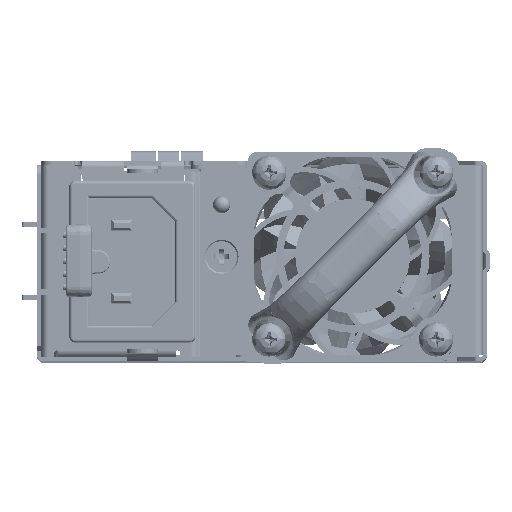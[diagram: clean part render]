
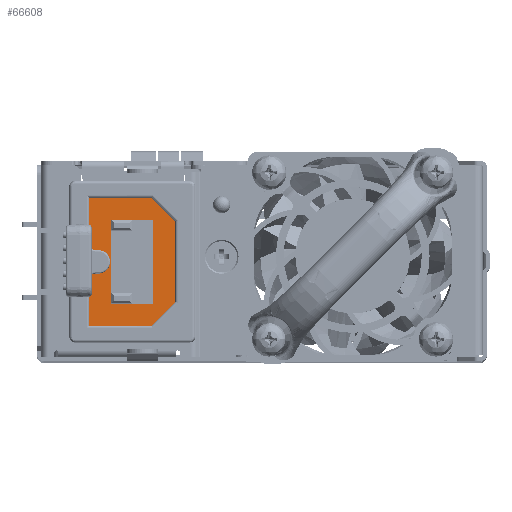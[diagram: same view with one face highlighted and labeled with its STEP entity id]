
A CAD part, top view. The second image highlights one B-rep face of the part: STEP entity #66608.
In plain terms, the highlighted planar face has unit normal (0, 0, 1).
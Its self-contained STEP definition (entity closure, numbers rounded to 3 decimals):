
#63188=DIRECTION('',(-1.,0.,0.));
#63189=VECTOR('',#63188,15.407);
#63190=CARTESIAN_POINT('',(7.703,8.25,-16.1));
#63191=LINE('',#63190,#63189);
#63251=DIRECTION('',(0.,1.,0.));
#63252=VECTOR('',#63251,11.953);
#63253=CARTESIAN_POINT('',(12.25,-8.25,-16.1));
#63254=LINE('',#63253,#63252);
#63283=DIRECTION('',(1.,0.,0.));
#63284=VECTOR('',#63283,8.75);
#63285=CARTESIAN_POINT('',(3.5,-8.25,-16.1));
#63286=LINE('',#63285,#63284);
#63297=DIRECTION('',(1.,0.,0.));
#63298=VECTOR('',#63297,8.75);
#63299=CARTESIAN_POINT('',(-12.25,-8.25,-16.1));
#63300=LINE('',#63299,#63298);
#63377=DIRECTION('',(0.,-1.,0.));
#63378=VECTOR('',#63377,0.5);
#63379=CARTESIAN_POINT('',(2.25,-6.5,-16.1));
#63380=LINE('',#63379,#63378);
#63482=CARTESIAN_POINT('',(3.5,-7.,-16.1));
#63483=DIRECTION('',(0.,0.,-1.));
#63484=DIRECTION('',(0.,-1.,0.));
#63485=AXIS2_PLACEMENT_3D('',#63482,#63483,#63484);
#63490=CARTESIAN_POINT('',(0.,-6.5,-16.1));
#63491=DIRECTION('',(0.,0.,1.));
#63492=DIRECTION('',(1.,0.,0.));
#63493=AXIS2_PLACEMENT_3D('',#63490,#63491,#63492);
#63498=DIRECTION('',(0.,-1.,0.));
#63499=VECTOR('',#63498,0.5);
#63500=CARTESIAN_POINT('',(-2.25,-6.5,-16.1));
#63501=LINE('',#63500,#63499);
#63505=CARTESIAN_POINT('',(-3.5,-7.,-16.1));
#63506=DIRECTION('',(0.,0.,-1.));
#63507=DIRECTION('',(1.,0.,0.));
#63508=AXIS2_PLACEMENT_3D('',#63505,#63506,#63507);
#63513=DIRECTION('',(0.707,0.707,0.));
#63514=VECTOR('',#63513,6.43);
#63515=CARTESIAN_POINT('',(-12.25,3.703,-16.1));
#63516=LINE('',#63515,#63514);
#63520=DIRECTION('',(0.707,-0.707,0.));
#63521=VECTOR('',#63520,6.43);
#63522=CARTESIAN_POINT('',(7.703,8.25,-16.1));
#63523=LINE('',#63522,#63521);
#63541=DIRECTION('',(0.,-1.,0.));
#63542=VECTOR('',#63541,11.953);
#63543=CARTESIAN_POINT('',(-12.25,3.703,-16.1));
#63544=LINE('',#63543,#63542);
#65340=CARTESIAN_POINT('',(7.703,8.25,-16.1));
#65341=VERTEX_POINT('',#65340);
#65342=CARTESIAN_POINT('',(-7.703,8.25,-16.1));
#65343=VERTEX_POINT('',#65342);
#65354=CARTESIAN_POINT('',(12.25,3.703,-16.1));
#65355=VERTEX_POINT('',#65354);
#65356=CARTESIAN_POINT('',(12.25,-8.25,-16.1));
#65357=VERTEX_POINT('',#65356);
#65363=CARTESIAN_POINT('',(3.5,-8.25,-16.1));
#65364=VERTEX_POINT('',#65363);
#65367=CARTESIAN_POINT('',(-12.25,-8.25,-16.1));
#65368=VERTEX_POINT('',#65367);
#65369=CARTESIAN_POINT('',(-3.5,-8.25,-16.1));
#65370=VERTEX_POINT('',#65369);
#65387=CARTESIAN_POINT('',(2.25,-6.5,-16.1));
#65388=VERTEX_POINT('',#65387);
#65389=CARTESIAN_POINT('',(2.25,-7.,-16.1));
#65390=VERTEX_POINT('',#65389);
#65395=CARTESIAN_POINT('',(-2.25,-6.5,-16.1));
#65396=VERTEX_POINT('',#65395);
#65399=CARTESIAN_POINT('',(-2.25,-7.,-16.1));
#65400=VERTEX_POINT('',#65399);
#65403=CARTESIAN_POINT('',(-12.25,3.703,-16.1));
#65404=VERTEX_POINT('',#65403);
#66586=CARTESIAN_POINT('',(0.,15.953,-16.1));
#66587=DIRECTION('',(0.,0.,-1.));
#66588=DIRECTION('',(-1.,0.,0.));
#66589=AXIS2_PLACEMENT_3D('',#66586,#66587,#66588);
#66590=PLANE('',#66589);
#66591=ORIENTED_EDGE('',*,*,#66417,.F.);
#66593=ORIENTED_EDGE('',*,*,#66592,.T.);
#66594=ORIENTED_EDGE('',*,*,#66490,.F.);
#66595=ORIENTED_EDGE('',*,*,#66508,.T.);
#66596=ORIENTED_EDGE('',*,*,#66551,.T.);
#66597=ORIENTED_EDGE('',*,*,#66567,.T.);
#66598=ORIENTED_EDGE('',*,*,#66424,.F.);
#66600=ORIENTED_EDGE('',*,*,#66599,.F.);
#66602=ORIENTED_EDGE('',*,*,#66601,.T.);
#66603=ORIENTED_EDGE('',*,*,#66352,.F.);
#66604=ORIENTED_EDGE('',*,*,#66385,.T.);
#66605=ORIENTED_EDGE('',*,*,#66399,.F.);
#66606=EDGE_LOOP('',(#66591,#66593,#66594,#66595,#66596,#66597,#66598,#66600,
#66602,#66603,#66604,#66605));
#66607=FACE_OUTER_BOUND('',#66606,.F.);
#66608=ADVANCED_FACE('',(#66607),#66590,.F.);
#63486=CIRCLE('',#63485,1.25);
#63494=CIRCLE('',#63493,2.25);
#63509=CIRCLE('',#63508,1.25);
#66352=EDGE_CURVE('',#65341,#65343,#63191,.T.);
#66385=EDGE_CURVE('',#65341,#65355,#63523,.T.);
#66399=EDGE_CURVE('',#65357,#65355,#63254,.T.);
#66417=EDGE_CURVE('',#65364,#65357,#63286,.T.);
#66424=EDGE_CURVE('',#65368,#65370,#63300,.T.);
#66490=EDGE_CURVE('',#65388,#65390,#63380,.T.);
#66508=EDGE_CURVE('',#65388,#65396,#63494,.T.);
#66551=EDGE_CURVE('',#65396,#65400,#63501,.T.);
#66567=EDGE_CURVE('',#65400,#65370,#63509,.T.);
#66592=EDGE_CURVE('',#65364,#65390,#63486,.T.);
#66599=EDGE_CURVE('',#65404,#65368,#63544,.T.);
#66601=EDGE_CURVE('',#65404,#65343,#63516,.T.);
